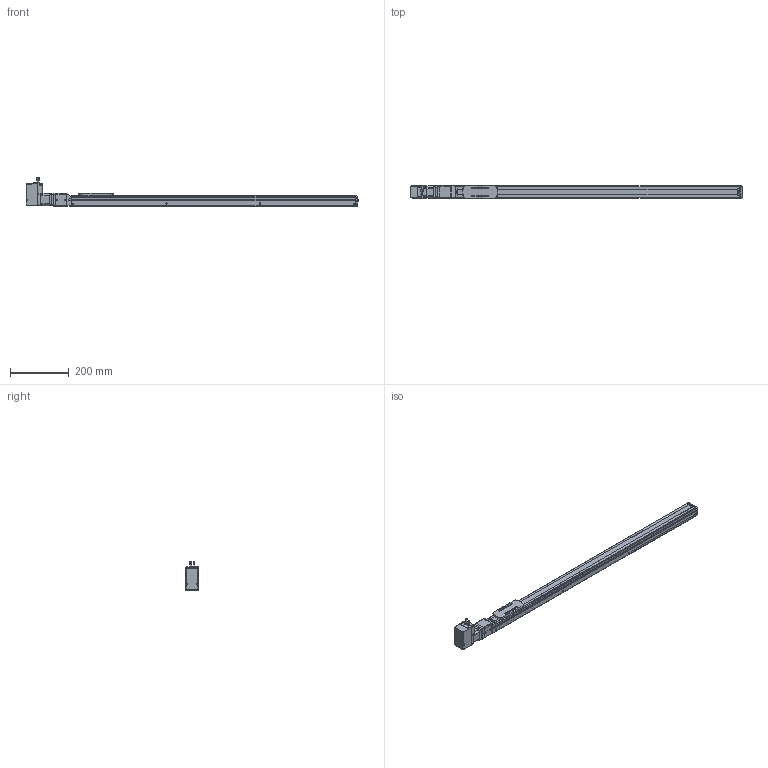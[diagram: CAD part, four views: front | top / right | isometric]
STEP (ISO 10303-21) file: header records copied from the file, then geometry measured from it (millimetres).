
FILE_DESCRIPTION(('FreeCAD Model'),'2;1');
FILE_NAME('Open CASCADE Shape Model','2023-08-01T18:25:43',('Author'),( ''),'Open CASCADE STEP processor 7.5','FreeCAD','Unknown');
FILE_SCHEMA(('AUTOMOTIVE_DESIGN { 1 0 10303 214 1 1 1 1 }'));
Length unit declared in the file: millimetre
Products named in the file (20): RCB0411; Shapes; Shapes001; Shapes002; Shapes003; Shapes004; Shapes005; Shapes006; Shapes007; Shapes008; Shapes009; Shapes010; Shapes011; Shapes012; Shapes013; KSF4-10-0800-0-AR(0); KSF4---(Cover); KSF4-AR---(Motor bracket); KSF4-10-0800---(slider); KSF4-10-0800-0-AR-(08000ARNo0)---(body)
Assembly tree (19 placements, depth 3):
  RCB0411
    Shapes
    Shapes001
    Shapes002
    Shapes003
    Shapes004
    Shapes005
    Shapes006
    Shapes007
    Shapes008
    Shapes009
    Shapes010
    Shapes011
    Shapes012
    Shapes013
    KSF4-10-0800-0-AR(0)
      KSF4---(Cover)
      KSF4-AR---(Motor bracket)
      KSF4-10-0800---(slider)
      KSF4-10-0800-0-AR-(08000ARNo0)---(body)
Bounding box: 1132 x 45.4 x 99.34 mm (x, y, z)
Volume: 1783564.8 mm3; surface area: 330703 mm2
Topology: 18 solids, 18 shells, 1309 faces, 3366 edges, 2196 vertices
Faces by surface type: plane 723, cylinder 436, cone 68, torus 53, bspline 19, revolution 6, sphere 4
Full cylindrical faces by diameter (mm): 2.113 x8, 2.459 x3, 3 x6, 3.242 x4, 3.4 x20, 4 x3, 4.5 x2, 5.5 x8, 6 x1, 6.5 x22, 8 x1, 12 x1, 22 x1, 28 x1, 30 x2
Entity records: 95226 total; most frequent: CARTESIAN_POINT 27234, DIRECTION 12781, LINE 7575, VECTOR 7575, ORIENTED_EDGE 6696, PCURVE 6696, DEFINITIONAL_REPRESENTATION 6696, EDGE_CURVE 3348
